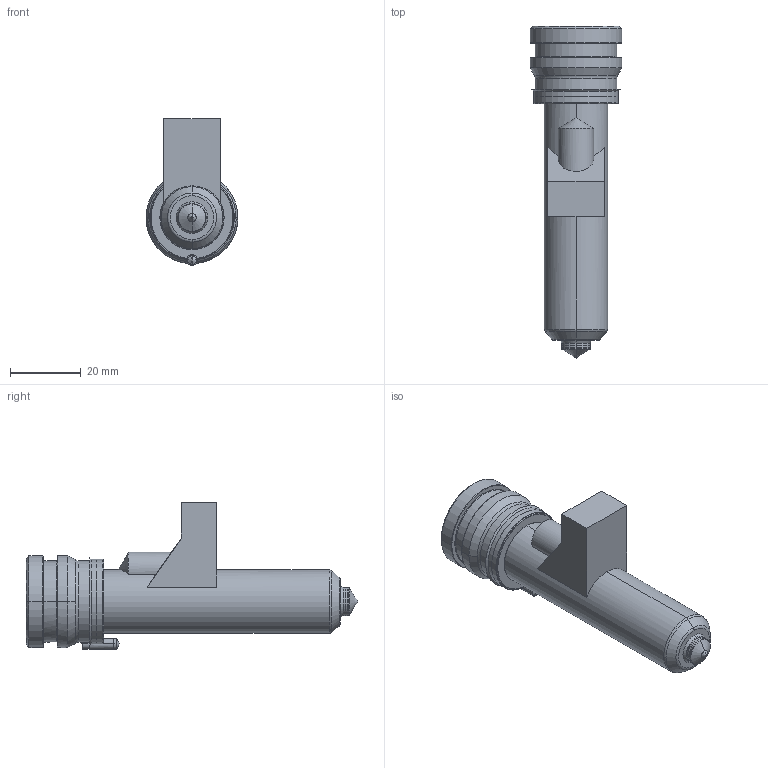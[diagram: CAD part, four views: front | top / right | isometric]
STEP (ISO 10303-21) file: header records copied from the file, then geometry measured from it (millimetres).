
FILE_DESCRIPTION((''),'2;1');
FILE_NAME('MPN-08-24-TS8-076-M','2026-02-05T13:24:17',('UPTIO'),('Thermoplay S.p.A.'),'CREO PARAMETRIC BY PTC INC, 2023494','CREO PARAMETRIC BY PTC INC, 2023494','');
FILE_SCHEMA(('CONFIG_CONTROL_DESIGN','SHAPE_APPEARANCE_LAYERS_GROUPS'));
Length unit declared in the file: millimetre
Products named in the file (1): MPN-08-24-TS8-076-M
Bounding box: 26 x 94 x 41.5 mm (x, y, z)
Volume: 19447.7 mm3; surface area: 24975.6 mm2
Topology: 2 solids, 5 shells, 532 faces, 1371 edges, 843 vertices
Faces by surface type: cylinder 172, plane 146, bspline 77, torus 62, cone 58, sphere 11, extrusion 6
Entity records: 28529 total; most frequent: CARTESIAN_POINT 12890, ORIENTED_EDGE 2720, DIRECTION 2456, EDGE_CURVE 1360, AXIS2_PLACEMENT_3D 960, VERTEX_POINT 843, EDGE_LOOP 561, VECTOR 536
